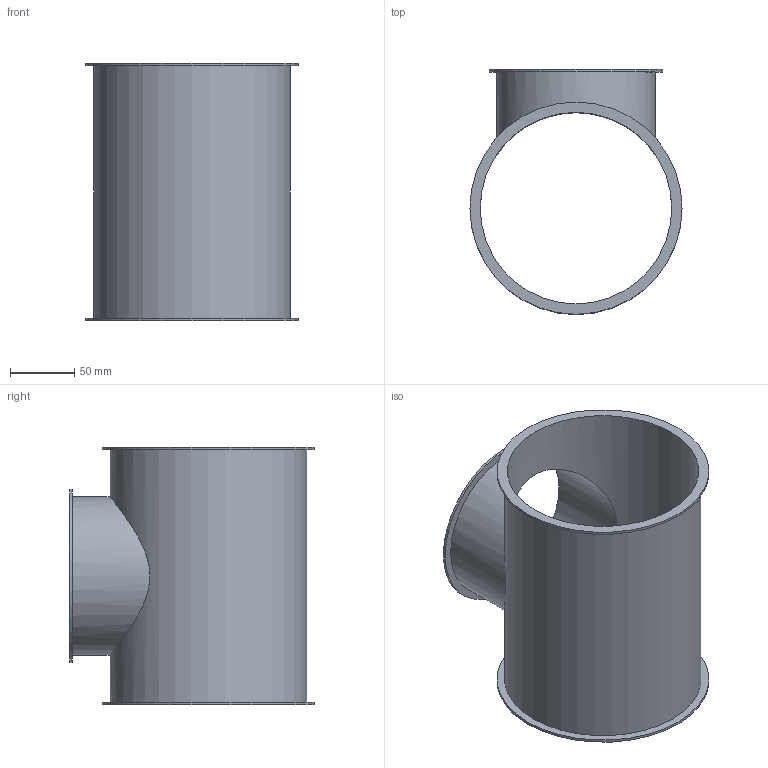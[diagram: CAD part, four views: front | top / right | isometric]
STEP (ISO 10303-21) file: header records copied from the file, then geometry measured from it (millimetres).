
FILE_DESCRIPTION((''),'2;1');
FILE_NAME('U:\Wolfgang\Marcel-3D\fertig\Kapitel 4\1521039.stp','2011-04-21T08:26:18',('TK1'),(''),'Autodesk Inventor 2010','Autodesk Inventor 2010','');
FILE_SCHEMA(('AUTOMOTIVE_DESIGN { 1 0 10303 214 1 1 1 1 }'));
Length unit declared in the file: millimetre
Products named in the file (1): 1521039
Bounding box: 165 x 190.5 x 200 mm (x, y, z)
Volume: 215759 mm3; surface area: 219466.9 mm2
Topology: 1 solids, 1 shells, 13 faces, 23 edges, 16 vertices
Faces by surface type: cylinder 7, plane 6
Full cylindrical faces by diameter (mm): 119 x1, 123 x1, 135 x1, 149 x1, 153 x1, 165 x2
Entity records: 432 total; most frequent: CARTESIAN_POINT 172, DIRECTION 52, ORIENTED_EDGE 28, EDGE_LOOP 28, AXIS2_PLACEMENT_3D 26, FACE_BOUND 15, VERTEX_POINT 14, EDGE_CURVE 14
